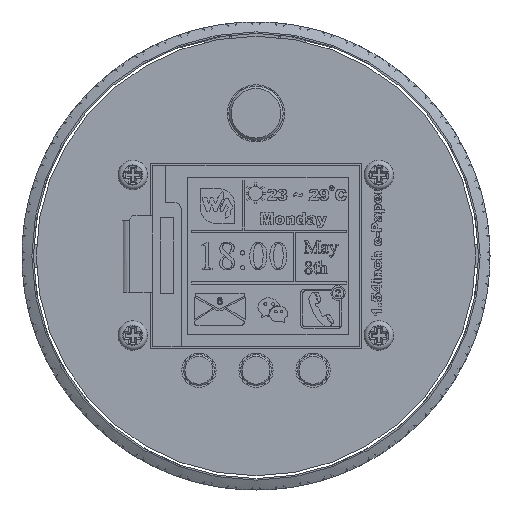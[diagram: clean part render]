
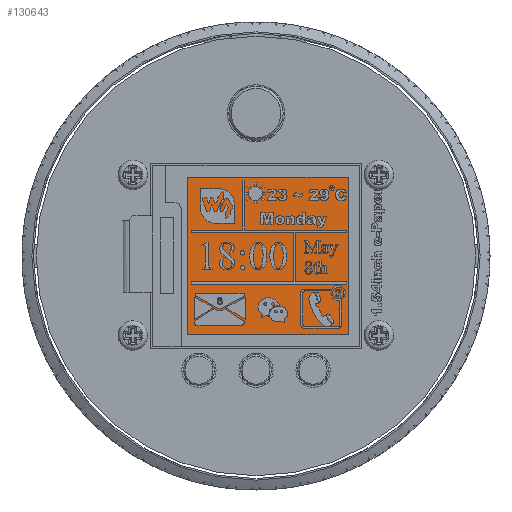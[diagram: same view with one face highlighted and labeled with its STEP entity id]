
A CAD part, front view. The second image highlights one B-rep face of the part: STEP entity #130643.
In plain terms, the highlighted planar face has unit normal (0, -1, 0) as drawn and (0, 0, 1) by its records, which use the part's own axes.
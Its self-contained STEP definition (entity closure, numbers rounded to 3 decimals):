
#5483=LINE('',#178936,#16471);
#5485=LINE('',#178940,#16473);
#5487=LINE('',#178944,#16475);
#5489=LINE('',#178947,#16477);
#16471=VECTOR('',#148495,1000.);
#16473=VECTOR('',#148499,1000.);
#16475=VECTOR('',#148503,1000.);
#16477=VECTOR('',#148507,1000.);
#31793=FACE_OUTER_BOUND('',#39931,.T.);
#39931=EDGE_LOOP('',(#89560,#89561,#89562,#89563));
#55830=VERTEX_POINT('',#178933);
#55831=VERTEX_POINT('',#178935);
#55832=VERTEX_POINT('',#178939);
#55833=VERTEX_POINT('',#178943);
#68540=EDGE_CURVE('',#55830,#55831,#5483,.T.);
#68542=EDGE_CURVE('',#55831,#55832,#5485,.T.);
#68544=EDGE_CURVE('',#55832,#55833,#5487,.T.);
#68546=EDGE_CURVE('',#55833,#55830,#5489,.T.);
#89560=ORIENTED_EDGE('',*,*,#68540,.F.);
#89561=ORIENTED_EDGE('',*,*,#68546,.F.);
#89562=ORIENTED_EDGE('',*,*,#68544,.F.);
#89563=ORIENTED_EDGE('',*,*,#68542,.F.);
#126573=PLANE('',#139536);
#130643=ADVANCED_FACE('',(#31793),#126573,.F.);
#139536=AXIS2_PLACEMENT_3D('',#178948,#148508,#148509);
#148495=DIRECTION('',(0.,1.,0.));
#148499=DIRECTION('',(1.,0.,0.));
#148503=DIRECTION('',(0.,-1.,0.));
#148507=DIRECTION('',(-1.,0.,0.));
#148508=DIRECTION('center_axis',(0.,0.,-1.));
#148509=DIRECTION('ref_axis',(-1.,0.,0.));
#178933=CARTESIAN_POINT('',(-12.014,-13.805,1.013));
#178935=CARTESIAN_POINT('',(-12.014,13.805,1.013));
#178936=CARTESIAN_POINT('',(-12.014,-13.805,1.013));
#178939=CARTESIAN_POINT('',(16.154,13.805,1.013));
#178940=CARTESIAN_POINT('',(-12.014,13.805,1.013));
#178943=CARTESIAN_POINT('',(16.154,-13.805,1.013));
#178944=CARTESIAN_POINT('',(16.154,13.805,1.013));
#178947=CARTESIAN_POINT('',(16.154,-13.805,1.013));
#178948=CARTESIAN_POINT('Origin',(0.,0.,1.013));
